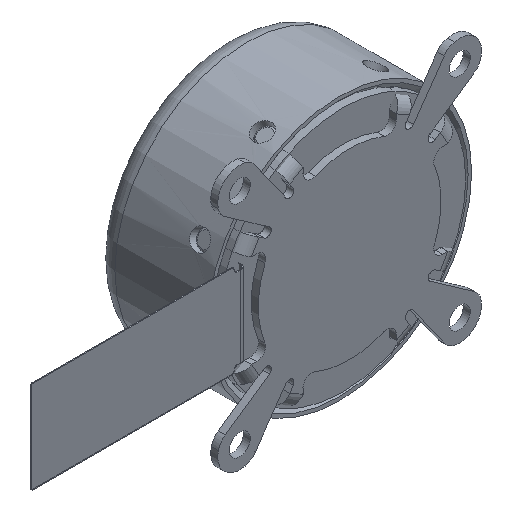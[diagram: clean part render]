
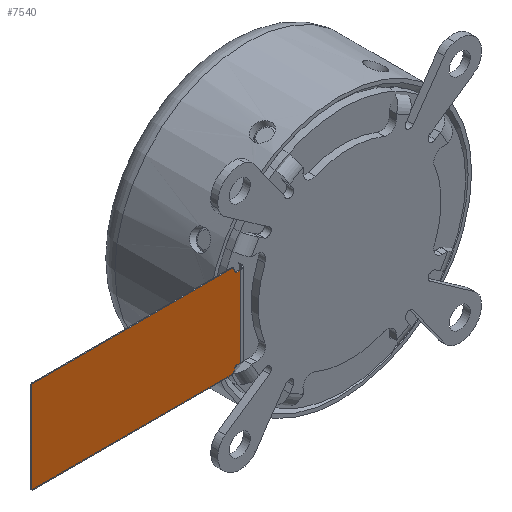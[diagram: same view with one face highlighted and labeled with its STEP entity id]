
A CAD part, isometric view. The second image highlights one B-rep face of the part: STEP entity #7540.
In plain terms, the highlighted planar face has unit normal (0, -1, 0).
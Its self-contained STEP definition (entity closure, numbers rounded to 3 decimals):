
#61 = DIRECTION ( 'NONE',  ( 0., 0., 1. ) ) ;
#334 = EDGE_CURVE ( 'NONE', #7452, #7091, #11236, .T. ) ;
#359 = VERTEX_POINT ( 'NONE', #14032 ) ;
#421 = CARTESIAN_POINT ( 'NONE',  ( -36.159, -7.06, 5.05 ) ) ;
#441 = DIRECTION ( 'NONE',  ( 0., -1., 0. ) ) ;
#528 = DIRECTION ( 'NONE',  ( 1., 0., 0. ) ) ;
#597 = CARTESIAN_POINT ( 'NONE',  ( -12.916, -7.06, -4.6 ) ) ;
#897 = CARTESIAN_POINT ( 'NONE',  ( -12.33, -7.06, 4.6 ) ) ;
#923 = DIRECTION ( 'NONE',  ( 0., 0., -1. ) ) ;
#971 = AXIS2_PLACEMENT_3D ( 'NONE', #3990, #5443, #923 ) ;
#1070 = CARTESIAN_POINT ( 'NONE',  ( -36.159, -7.06, -5.05 ) ) ;
#1281 = EDGE_CURVE ( 'NONE', #12158, #7720, #10532, .T. ) ;
#1566 = AXIS2_PLACEMENT_3D ( 'NONE', #11477, #10209, #7338 ) ;
#2153 = LINE ( 'NONE', #12343, #7122 ) ;
#2229 = VECTOR ( 'NONE', #8710, 1000. ) ;
#2292 = CARTESIAN_POINT ( 'NONE',  ( -12.33, -7.06, -4.6 ) ) ;
#2304 = CARTESIAN_POINT ( 'NONE',  ( -12.779, -7.06, -4.6 ) ) ;
#2348 = DIRECTION ( 'NONE',  ( 0., 1., 0. ) ) ;
#2587 = VERTEX_POINT ( 'NONE', #8245 ) ;
#2721 = ORIENTED_EDGE ( 'NONE', *, *, #12166, .T. ) ;
#3376 = ORIENTED_EDGE ( 'NONE', *, *, #16628, .T. ) ;
#3611 = CARTESIAN_POINT ( 'NONE',  ( -12.965, -7.06, -4.728 ) ) ;
#3632 = CIRCLE ( 'NONE', #5168, 0.2 ) ;
#3678 = DIRECTION ( 'NONE',  ( 1., 0., 0. ) ) ;
#3787 = DIRECTION ( 'NONE',  ( 0., -1., 0. ) ) ;
#3875 = CARTESIAN_POINT ( 'NONE',  ( -35.959, -7.06, -5.05 ) ) ;
#3990 = CARTESIAN_POINT ( 'NONE',  ( -12.33, -7.06, -5.25 ) ) ;
#4015 = VECTOR ( 'NONE', #15406, 1000. ) ;
#4055 = AXIS2_PLACEMENT_3D ( 'NONE', #12255, #441, #528 ) ;
#4144 = EDGE_CURVE ( 'NONE', #8675, #4918, #13836, .T. ) ;
#4442 = ORIENTED_EDGE ( 'NONE', *, *, #11124, .F. ) ;
#4787 = CARTESIAN_POINT ( 'NONE',  ( -12.779, -7.06, -4.8 ) ) ;
#4918 = VERTEX_POINT ( 'NONE', #16324 ) ;
#5168 = AXIS2_PLACEMENT_3D ( 'NONE', #7075, #15817, #14747 ) ;
#5302 = VERTEX_POINT ( 'NONE', #1070 ) ;
#5320 = LINE ( 'NONE', #11173, #4015 ) ;
#5381 = LINE ( 'NONE', #7007, #13148 ) ;
#5443 = DIRECTION ( 'NONE',  ( 0., 1., 0. ) ) ;
#5473 = DIRECTION ( 'NONE',  ( -1., 0., 0. ) ) ;
#5775 = CIRCLE ( 'NONE', #8203, 0.2 ) ;
#6317 = CARTESIAN_POINT ( 'NONE',  ( -13.117, -7.06, 5.122 ) ) ;
#6726 = ORIENTED_EDGE ( 'NONE', *, *, #7718, .F. ) ;
#7007 = CARTESIAN_POINT ( 'NONE',  ( -12.33, -7.06, 5.25 ) ) ;
#7075 = CARTESIAN_POINT ( 'NONE',  ( -13.303, -7.06, -5.05 ) ) ;
#7091 = VERTEX_POINT ( 'NONE', #2304 ) ;
#7122 = VECTOR ( 'NONE', #13940, 1000. ) ;
#7144 = ORIENTED_EDGE ( 'NONE', *, *, #13431, .T. ) ;
#7206 = EDGE_CURVE ( 'NONE', #7091, #12158, #13225, .T. ) ;
#7320 = ORIENTED_EDGE ( 'NONE', *, *, #10633, .T. ) ;
#7338 = DIRECTION ( 'NONE',  ( 1., 0., 0. ) ) ;
#7452 = VERTEX_POINT ( 'NONE', #3611 ) ;
#7540 = ADVANCED_FACE ( 'NONE', ( #15714 ), #16867, .F. ) ;
#7620 = VERTEX_POINT ( 'NONE', #11580 ) ;
#7718 = EDGE_CURVE ( 'NONE', #16982, #12470, #2153, .T. ) ;
#7720 = VERTEX_POINT ( 'NONE', #897 ) ;
#7817 = EDGE_CURVE ( 'NONE', #359, #8675, #5320, .T. ) ;
#8101 = CARTESIAN_POINT ( 'NONE',  ( -35.959, -7.06, -5.25 ) ) ;
#8203 = AXIS2_PLACEMENT_3D ( 'NONE', #8982, #17842, #12073 ) ;
#8245 = CARTESIAN_POINT ( 'NONE',  ( -35.959, -7.06, 5.25 ) ) ;
#8675 = VERTEX_POINT ( 'NONE', #6317 ) ;
#8710 = DIRECTION ( 'NONE',  ( 1., 0., 0. ) ) ;
#8917 = ORIENTED_EDGE ( 'NONE', *, *, #13779, .T. ) ;
#8982 = CARTESIAN_POINT ( 'NONE',  ( -35.959, -7.06, 5.05 ) ) ;
#10039 = ORIENTED_EDGE ( 'NONE', *, *, #13681, .T. ) ;
#10145 = CARTESIAN_POINT ( 'NONE',  ( -9.416, -7.06, -4.6 ) ) ;
#10209 = DIRECTION ( 'NONE',  ( 0., 1., 0. ) ) ;
#10532 = LINE ( 'NONE', #16491, #11268 ) ;
#10633 = EDGE_CURVE ( 'NONE', #4918, #2587, #5381, .T. ) ;
#10856 = ORIENTED_EDGE ( 'NONE', *, *, #4144, .T. ) ;
#10961 = LINE ( 'NONE', #597, #18434 ) ;
#11000 = ORIENTED_EDGE ( 'NONE', *, *, #7206, .T. ) ;
#11124 = EDGE_CURVE ( 'NONE', #5302, #12606, #17371, .T. ) ;
#11173 = CARTESIAN_POINT ( 'NONE',  ( -12.916, -7.06, 4.6 ) ) ;
#11190 = EDGE_LOOP ( 'NONE', ( #15934, #10856, #7320, #10039, #4442, #8917, #6726, #2721, #7144, #13564, #11000, #11656, #3376, #17259 ) ) ;
#11236 = CIRCLE ( 'NONE', #16158, 0.2 ) ;
#11268 = VECTOR ( 'NONE', #16404, 1000. ) ;
#11406 = LINE ( 'NONE', #13032, #16420 ) ;
#11477 = CARTESIAN_POINT ( 'NONE',  ( -12.779, -7.06, 4.8 ) ) ;
#11580 = CARTESIAN_POINT ( 'NONE',  ( -12.779, -7.06, 4.6 ) ) ;
#11656 = ORIENTED_EDGE ( 'NONE', *, *, #1281, .T. ) ;
#11724 = VERTEX_POINT ( 'NONE', #18116 ) ;
#12073 = DIRECTION ( 'NONE',  ( 0., 0., -1. ) ) ;
#12158 = VERTEX_POINT ( 'NONE', #2292 ) ;
#12166 = EDGE_CURVE ( 'NONE', #16982, #11724, #3632, .T. ) ;
#12255 = CARTESIAN_POINT ( 'NONE',  ( -13.303, -7.06, 5.05 ) ) ;
#12306 = CIRCLE ( 'NONE', #1566, 0.2 ) ;
#12343 = CARTESIAN_POINT ( 'NONE',  ( -12.33, -7.06, -5.25 ) ) ;
#12470 = VERTEX_POINT ( 'NONE', #8101 ) ;
#12606 = VERTEX_POINT ( 'NONE', #421 ) ;
#12834 = VECTOR ( 'NONE', #61, 1000. ) ;
#12865 = CIRCLE ( 'NONE', #13757, 0.2 ) ;
#13032 = CARTESIAN_POINT ( 'NONE',  ( -9.416, -7.06, 4.6 ) ) ;
#13148 = VECTOR ( 'NONE', #5473, 1000. ) ;
#13225 = LINE ( 'NONE', #10145, #2229 ) ;
#13431 = EDGE_CURVE ( 'NONE', #11724, #7452, #10961, .T. ) ;
#13564 = ORIENTED_EDGE ( 'NONE', *, *, #334, .T. ) ;
#13681 = EDGE_CURVE ( 'NONE', #2587, #12606, #5775, .T. ) ;
#13757 = AXIS2_PLACEMENT_3D ( 'NONE', #3875, #3787, #14143 ) ;
#13779 = EDGE_CURVE ( 'NONE', #5302, #12470, #12865, .T. ) ;
#13836 = CIRCLE ( 'NONE', #4055, 0.2 ) ;
#13940 = DIRECTION ( 'NONE',  ( -1., 0., 0. ) ) ;
#14032 = CARTESIAN_POINT ( 'NONE',  ( -12.965, -7.06, 4.728 ) ) ;
#14143 = DIRECTION ( 'NONE',  ( 0., 0., -1. ) ) ;
#14363 = DIRECTION ( 'NONE',  ( -1., 0., 0. ) ) ;
#14615 = EDGE_CURVE ( 'NONE', #7620, #359, #12306, .T. ) ;
#14746 = CARTESIAN_POINT ( 'NONE',  ( -36.159, -7.06, -5.25 ) ) ;
#14747 = DIRECTION ( 'NONE',  ( 1., 0., 0. ) ) ;
#15004 = DIRECTION ( 'NONE',  ( 0.359, 0., 0.933 ) ) ;
#15406 = DIRECTION ( 'NONE',  ( -0.359, 0., 0.933 ) ) ;
#15705 = CARTESIAN_POINT ( 'NONE',  ( -13.303, -7.06, -5.25 ) ) ;
#15714 = FACE_OUTER_BOUND ( 'NONE', #11190, .T. ) ;
#15817 = DIRECTION ( 'NONE',  ( 0., -1., 0. ) ) ;
#15934 = ORIENTED_EDGE ( 'NONE', *, *, #7817, .T. ) ;
#16158 = AXIS2_PLACEMENT_3D ( 'NONE', #4787, #2348, #3678 ) ;
#16324 = CARTESIAN_POINT ( 'NONE',  ( -13.303, -7.06, 5.25 ) ) ;
#16404 = DIRECTION ( 'NONE',  ( 0., 0., 1. ) ) ;
#16420 = VECTOR ( 'NONE', #14363, 1000. ) ;
#16491 = CARTESIAN_POINT ( 'NONE',  ( -12.33, -7.06, -5.25 ) ) ;
#16628 = EDGE_CURVE ( 'NONE', #7720, #7620, #11406, .T. ) ;
#16867 = PLANE ( 'NONE',  #971 ) ;
#16982 = VERTEX_POINT ( 'NONE', #15705 ) ;
#17259 = ORIENTED_EDGE ( 'NONE', *, *, #14615, .T. ) ;
#17371 = LINE ( 'NONE', #14746, #12834 ) ;
#17842 = DIRECTION ( 'NONE',  ( 0., -1., 0. ) ) ;
#18116 = CARTESIAN_POINT ( 'NONE',  ( -13.117, -7.06, -5.122 ) ) ;
#18434 = VECTOR ( 'NONE', #15004, 1000. ) ;
